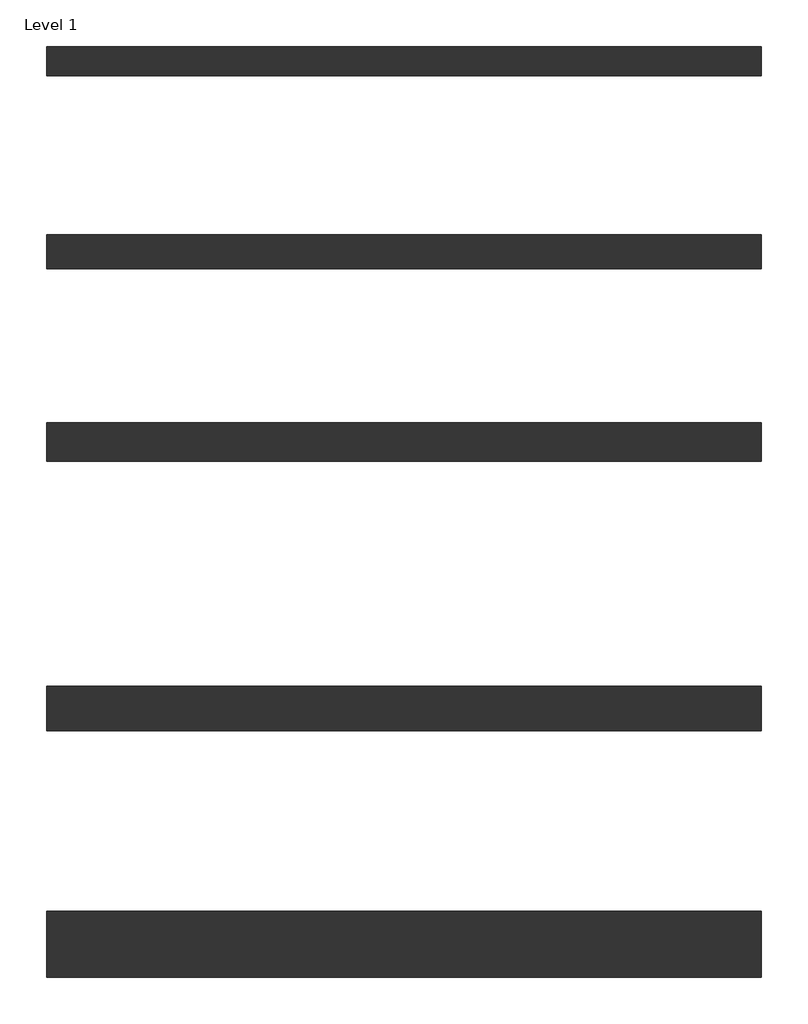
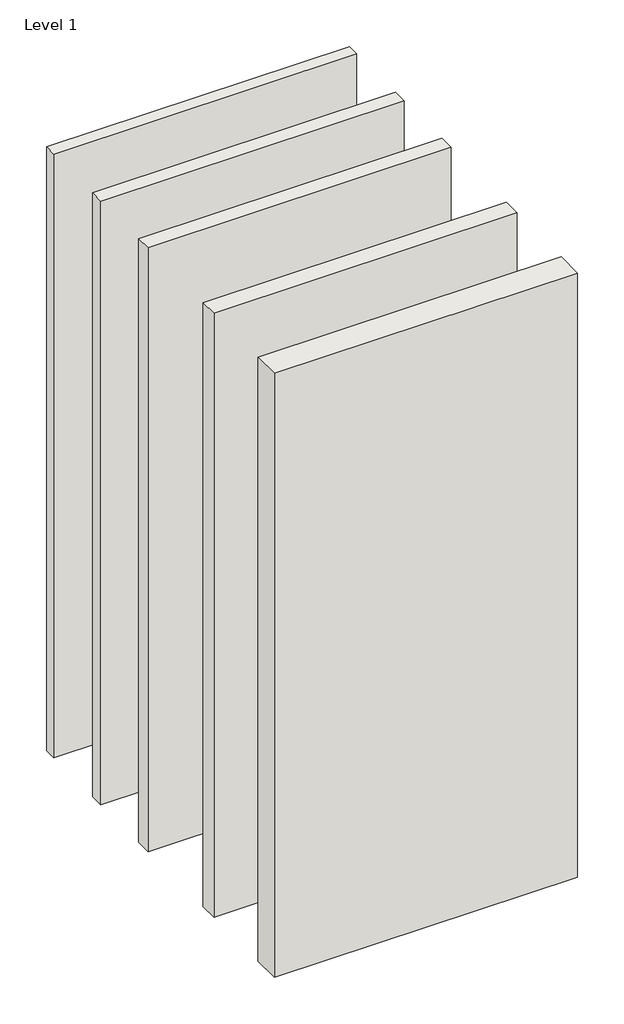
# One storey: 5 walls.
"""IFC4 building model written with IfcOpenShell, lengths in millimetres."""

from ifc_helpers import new_model, si_unit, origin, origin_with_axes, place, context, project, spatial, polyline, outline, extrude, element, save

model = new_model("IFC4")

# Units and contexts
model_context = context("Model", 3, world=origin())
ifc_project = project(units=[si_unit("LENGTHUNIT", "METRE", prefix="MILLI")], contexts=[model_context])

# Site, building, storey
site = spatial("IfcSite", under=ifc_project)
building = spatial("IfcBuilding", under=site)
storey = spatial("IfcBuildingStorey", under=building, Name="Level 1", Elevation=0.0)

# Walls
placement = place(None, origin())
element("IfcWall", 1, ObjectType="Interior-Steel Frame-Single Stud-CSR1032-102mm", at=placement, inside=storey, context=model_context, shape_type="SweptSolid", body=[
    extrude(outline(polyline([(-1190.7725509, -1165.8512143), (709.2274491, -1165.8512143), (709.2274491, -1267.8512143), (-1190.7725509, -1267.8512143), (-1190.7725509, -1165.8512143)])), origin_with_axes(), (0.0, 0.0, 1.0), 4000.0),
])
element("IfcWall", 2, ObjectType="Interior-Steel Frame-Single Stud-CSR1032-118mm", at=placement, inside=storey, context=model_context, shape_type="SweptSolid", body=[
    extrude(outline(polyline([(-1190.7725509, -1865.8512143), (709.2274491, -1865.8512143), (709.2274491, -1983.8512143), (-1190.7725509, -1983.8512143), (-1190.7725509, -1865.8512143)])), origin_with_axes(), (0.0, 0.0, 1.0), 4000.0),
])
element("IfcWall", 3, ObjectType="Interior-Steel Frame-Single Stud-CSR1032-176mm", at=placement, inside=storey, context=model_context, shape_type="SweptSolid", body=[
    extrude(outline(polyline([(-1190.7725509, -2463.8512143), (709.2274491, -2463.8512143), (709.2274491, -2639.8512143), (-1190.7725509, -2639.8512143), (-1190.7725509, -2463.8512143)])), origin_with_axes(), (0.0, 0.0, 1.0), 4000.0),
])
element("IfcWall", 4, ObjectType="Interior-Steel Frame-Single Stud-CSR1032-77mm", at=placement, inside=storey, context=model_context, shape_type="SweptSolid", body=[
    extrude(outline(polyline([(-1190.7725509, -165.8512143), (709.2274491, -165.8512143), (709.2274491, -242.8512143), (-1190.7725509, -242.8512143), (-1190.7725509, -165.8512143)])), origin_with_axes(), (0.0, 0.0, 1.0), 4000.0),
])
element("IfcWall", 5, ObjectType="Interior-Steel Frame-Single Stud-CSR1032-90mm", at=placement, inside=storey, context=model_context, shape_type="SweptSolid", body=[
    extrude(outline(polyline([(-1190.7725509, -665.8512143), (709.2274491, -665.8512143), (709.2274491, -755.8512143), (-1190.7725509, -755.8512143), (-1190.7725509, -665.8512143)])), origin_with_axes(), (0.0, 0.0, 1.0), 4000.0),
])

save(model, "model.ifc")
